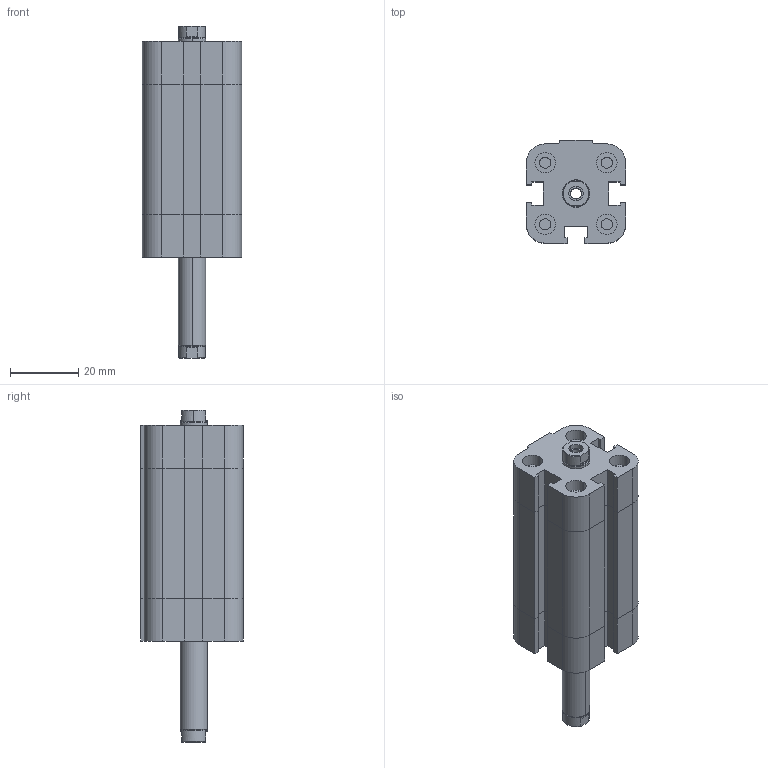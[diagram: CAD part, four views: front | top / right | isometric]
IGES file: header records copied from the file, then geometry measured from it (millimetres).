
Global section: file name: No Iges File Name specified; native system: Autodesk Inventor 2009; preprocessor: AutoDesk Inventor Iges Exporter R2009; author: maffial1; date: 20090420.201146; units: millimetre
Bounding box: 29 x 30 x 97 mm (x, y, z)
Volume: 44934.6 mm3; surface area: 17676 mm2
Topology: 2 solids, 2 shells, 204 faces, 456 edges, 278 vertices
Faces by surface type: plane 114, bspline 44, revolution 20, cylinder 18, cone 8
